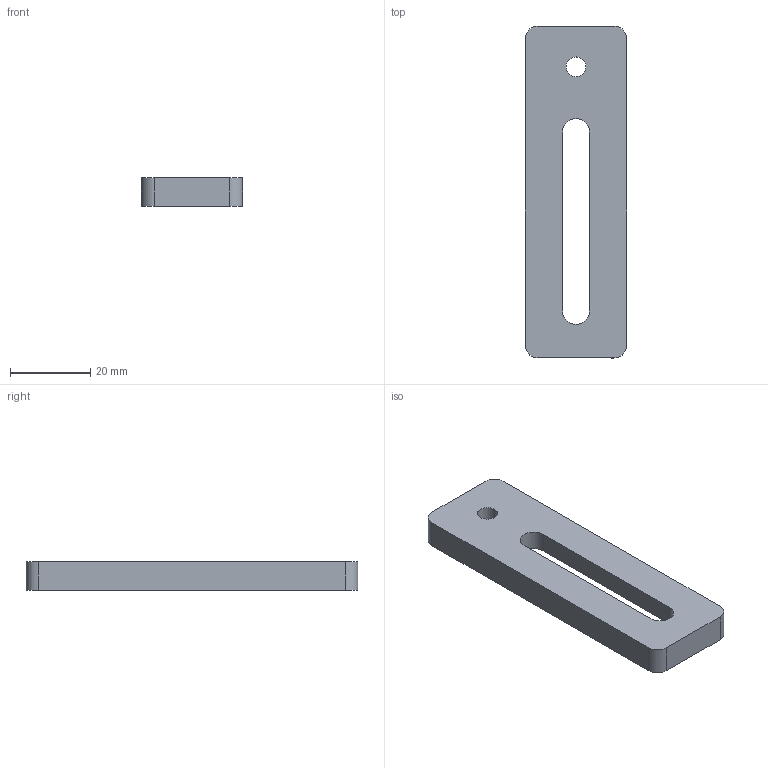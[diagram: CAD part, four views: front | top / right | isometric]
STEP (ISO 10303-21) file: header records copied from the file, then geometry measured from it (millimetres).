
FILE_DESCRIPTION(/* description */ ('STEP AP214'),/* implementation_level */ '2;1');
FILE_NAME(/* name */ 'CF175-Step.stp',/* time_stamp */ '2026-04-27T16:37:32+08:00',/* author */ ('xuwenjie'),/* organization */ (''),/* preprocessor_version */ 'ST-DEVELOPER v20',/* originating_system */ 'Autodesk Inventor 2024',/* authorisation */ '');
FILE_SCHEMA (('AUTOMOTIVE_DESIGN { 1 0 10303 214 3 1 1 }'));
Length unit declared in the file: inch
Products named in the file (1): CF175-Step
Bounding box: 25.15 x 82.5 x 7 mm (x, y, z)
Volume: 11171.9 mm3; surface area: 5814.3 mm2
Topology: 1 solids, 1 shells, 20 faces, 51 edges, 34 vertices
Faces by surface type: plane 11, cylinder 9
Full cylindrical faces by diameter (mm): 4.917 x1
Entity records: 666 total; most frequent: DIRECTION 111, CARTESIAN_POINT 106, ORIENTED_EDGE 102, EDGE_CURVE 51, AXIS2_PLACEMENT_3D 39, VERTEX_POINT 34, LINE 33, VECTOR 33
